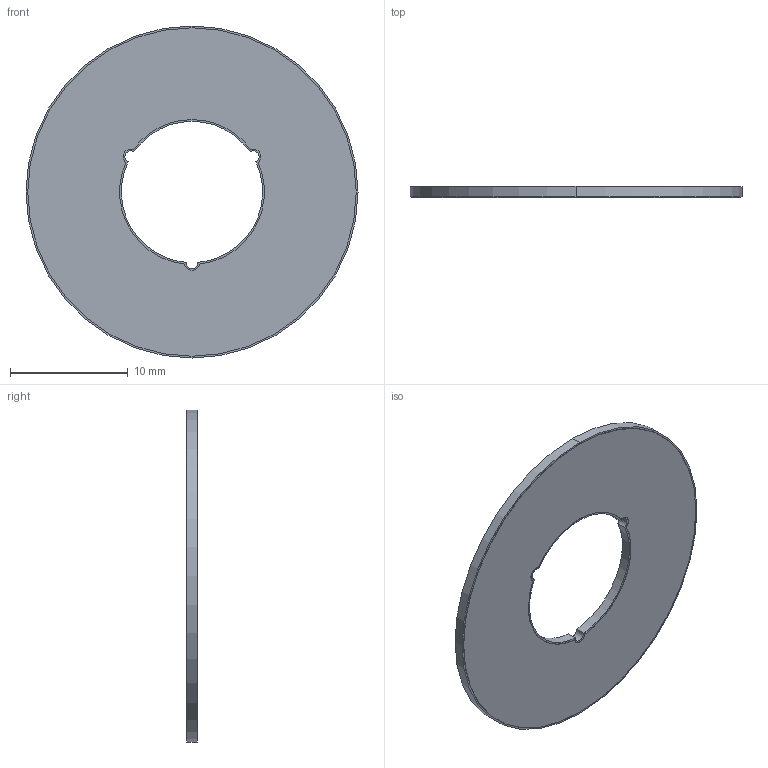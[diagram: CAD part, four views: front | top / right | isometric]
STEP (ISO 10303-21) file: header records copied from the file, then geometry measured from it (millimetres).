
FILE_DESCRIPTION (( 'STEP AP214' ), '1' );
FILE_NAME ('010462-MT081_Spi-Z44_Hole_publication.STEP', '2025-09-30T14:43:14', ( '' ), ( '' ), 'SwSTEP 2.0', 'SolidWorks 2025', '' );
FILE_SCHEMA (( 'AUTOMOTIVE_DESIGN' ));
Length unit declared in the file: millimetre
Products named in the file (1): 010462-MT081_Spi-Z44_Hole_publication
Bounding box: 28.2 x 0.92 x 28.2 mm (x, y, z)
Volume: 463.5 mm3; surface area: 1143.1 mm2
Topology: 1 solids, 1 shells, 38 faces, 90 edges, 60 vertices
Faces by surface type: cylinder 30, plane 8
Entity records: 1161 total; most frequent: DIRECTION 228, CARTESIAN_POINT 189, ORIENTED_EDGE 180, AXIS2_PLACEMENT_3D 99, EDGE_CURVE 90, VERTEX_POINT 60, CIRCLE 60, EDGE_LOOP 46
